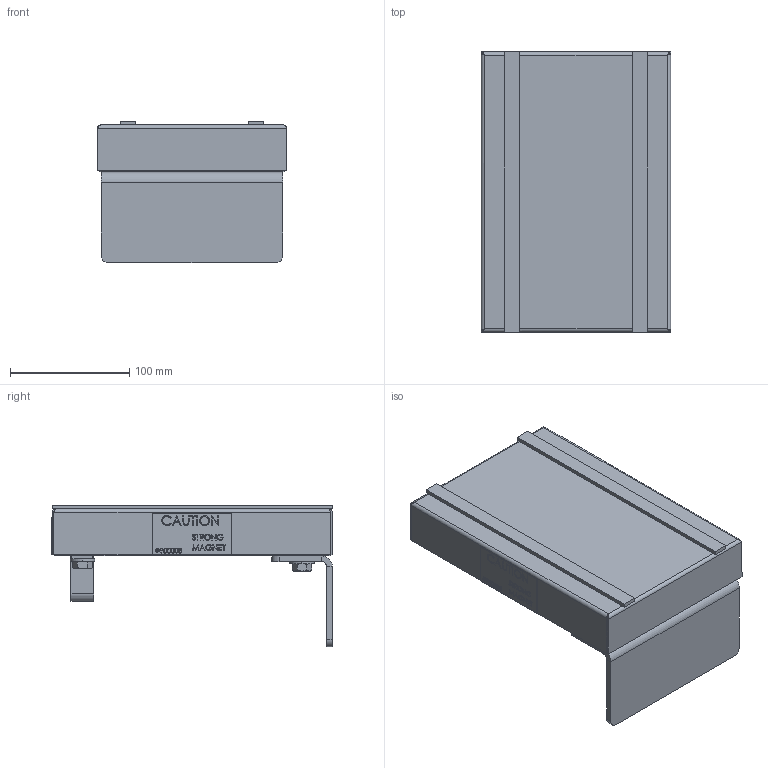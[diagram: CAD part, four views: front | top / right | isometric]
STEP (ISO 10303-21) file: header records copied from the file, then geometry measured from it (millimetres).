
FILE_DESCRIPTION (( 'STEP AP203' ), '1' );
FILE_NAME ('TNF09.STEP', '2018-08-24T12:32:15', ( '' ), ( '' ), 'SwSTEP 2.0', 'SolidWorks 2015', '' );
FILE_SCHEMA (( 'CONFIG_CONTROL_DESIGN' ));
Length unit declared in the file: inch
Products named in the file (1): TNF09
Bounding box: 159.26 x 235.2 x 118.75 mm (x, y, z)
Volume: 1247774.3 mm3; surface area: 367772.3 mm2
Topology: 19 solids, 19 shells, 1691 faces, 4205 edges, 2694 vertices
Faces by surface type: plane 908, bspline 427, cone 176, cylinder 172, torus 8
Entity records: 76810 total; most frequent: CARTESIAN_POINT 39336, ORIENTED_EDGE 8410, DIRECTION 6221, EDGE_CURVE 4205, LINE 2795, VECTOR 2795, VERTEX_POINT 2694, EDGE_LOOP 1865
